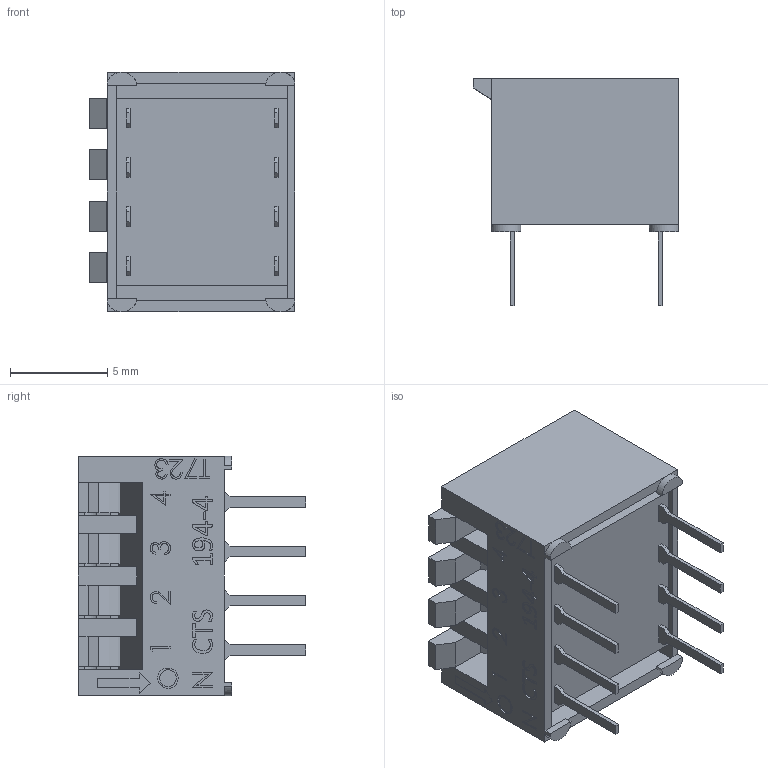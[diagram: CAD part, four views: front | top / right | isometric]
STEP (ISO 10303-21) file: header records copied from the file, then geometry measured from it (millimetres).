
FILE_DESCRIPTION (( 'STEP AP214' ), '1' );
FILE_NAME ('194-4MS.STEP', '2019-05-24T05:49:57', ( '' ), ( '' ), 'SwSTEP 2.0', 'SolidWorks 2019', '' );
FILE_SCHEMA (( 'AUTOMOTIVE_DESIGN' ));
Length unit declared in the file: millimetre
Products named in the file (4): 194-4MS; 93 & 94 Aeey- 4 ploe; 194-40-104; 193-56-001
Assembly tree (6 placements, depth 2):
  194-4MS
    194-40-104
    93 & 94 Aeey- 4 ploe
    193-56-001  x4
Bounding box: 10.59 x 11.71 x 12.34 mm (x, y, z)
Volume: 649.1 mm3; surface area: 1462.4 mm2
Topology: 6 solids, 6 shells, 443 faces, 1206 edges, 800 vertices
Faces by surface type: plane 302, bspline 117, cylinder 24
Entity records: 21426 total; most frequent: CARTESIAN_POINT 9037, ORIENTED_EDGE 2232, DIRECTION 1512, EDGE_CURVE 1116, LINE 850, VECTOR 850, VERTEX_POINT 740, EDGE_LOOP 440
